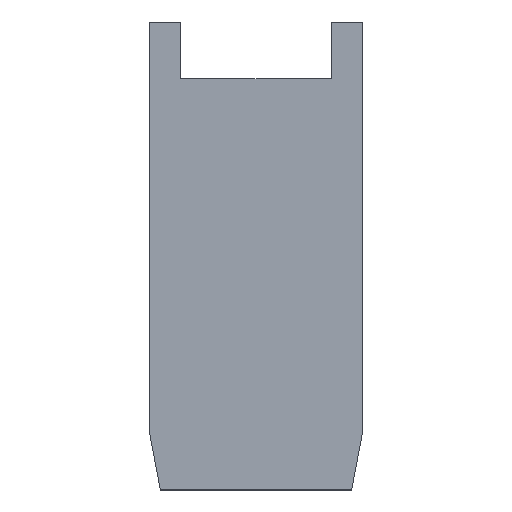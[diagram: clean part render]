
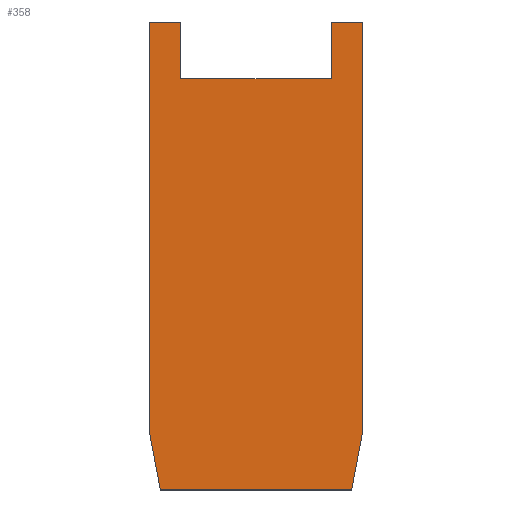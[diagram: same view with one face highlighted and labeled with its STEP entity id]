
A CAD part, top view. The second image highlights one B-rep face of the part: STEP entity #358.
In plain terms, the highlighted planar face has unit normal (0, 0, 1).
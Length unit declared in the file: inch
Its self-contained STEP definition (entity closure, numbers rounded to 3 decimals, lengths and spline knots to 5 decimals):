
#11 = VERTEX_POINT ( 'NONE', #20 ) ;
#20 = CARTESIAN_POINT ( 'NONE',  ( -1.687, -4.125, 0.75 ) ) ;
#24 = CARTESIAN_POINT ( 'NONE',  ( 0., 0., 0.75 ) ) ;
#29 = EDGE_CURVE ( 'NONE', #11, #124, #141, .T. ) ;
#51 = CARTESIAN_POINT ( 'NONE',  ( 1.324, 4.125, 0.75 ) ) ;
#58 = DIRECTION ( 'NONE',  ( 0., -1., 0. ) ) ;
#61 = CARTESIAN_POINT ( 'NONE',  ( -1.875, 4.125, 0.75 ) ) ;
#65 = CARTESIAN_POINT ( 'NONE',  ( -1.324, 3.125, 0.75 ) ) ;
#68 = DIRECTION ( 'NONE',  ( 1., 0., 0. ) ) ;
#77 = EDGE_CURVE ( 'NONE', #468, #669, #584, .T. ) ;
#86 = VECTOR ( 'NONE', #562, 39.37008 ) ;
#101 = LINE ( 'NONE', #324, #86 ) ;
#118 = CARTESIAN_POINT ( 'NONE',  ( 1.687, -4.125, 0.75 ) ) ;
#124 = VERTEX_POINT ( 'NONE', #118 ) ;
#127 = CARTESIAN_POINT ( 'NONE',  ( 1.324, 4.125, 0.75 ) ) ;
#138 = DIRECTION ( 'NONE',  ( 0., 1., 0. ) ) ;
#141 = LINE ( 'NONE', #408, #463 ) ;
#161 = CARTESIAN_POINT ( 'NONE',  ( -1.687, -4.125, 0.75 ) ) ;
#164 = EDGE_CURVE ( 'NONE', #669, #686, #591, .T. ) ;
#167 = VERTEX_POINT ( 'NONE', #230 ) ;
#178 = EDGE_CURVE ( 'NONE', #686, #167, #516, .T. ) ;
#191 = EDGE_CURVE ( 'NONE', #305, #468, #375, .T. ) ;
#199 = LINE ( 'NONE', #238, #590 ) ;
#209 = VECTOR ( 'NONE', #572, 39.37008 ) ;
#225 = ORIENTED_EDGE ( 'NONE', *, *, #635, .T. ) ;
#229 = VERTEX_POINT ( 'NONE', #51 ) ;
#230 = CARTESIAN_POINT ( 'NONE',  ( -1.875, -3.125, 0.75 ) ) ;
#238 = CARTESIAN_POINT ( 'NONE',  ( -1.875, 4.125, 0.75 ) ) ;
#239 = CARTESIAN_POINT ( 'NONE',  ( -1.324, 4.125, 0.75 ) ) ;
#243 = DIRECTION ( 'NONE',  ( 0., -1., 0. ) ) ;
#260 = VERTEX_POINT ( 'NONE', #447 ) ;
#263 = ORIENTED_EDGE ( 'NONE', *, *, #292, .T. ) ;
#264 = EDGE_CURVE ( 'NONE', #124, #649, #427, .T. ) ;
#270 = DIRECTION ( 'NONE',  ( 0.185, -0.983, 0. ) ) ;
#292 = EDGE_CURVE ( 'NONE', #167, #11, #318, .T. ) ;
#305 = VERTEX_POINT ( 'NONE', #495 ) ;
#318 = LINE ( 'NONE', #161, #364 ) ;
#324 = CARTESIAN_POINT ( 'NONE',  ( 1.875, 4.125, 0.75 ) ) ;
#328 = DIRECTION ( 'NONE',  ( 0.185, 0.983, 0. ) ) ;
#334 = ORIENTED_EDGE ( 'NONE', *, *, #29, .T. ) ;
#340 = ORIENTED_EDGE ( 'NONE', *, *, #264, .T. ) ;
#358 = ADVANCED_FACE ( 'NONE', ( #666 ), #471, .T. ) ;
#364 = VECTOR ( 'NONE', #270, 39.37008 ) ;
#370 = ORIENTED_EDGE ( 'NONE', *, *, #397, .T. ) ;
#374 = EDGE_CURVE ( 'NONE', #260, #229, #199, .T. ) ;
#375 = LINE ( 'NONE', #394, #651 ) ;
#384 = EDGE_LOOP ( 'NONE', ( #370, #548, #402, #502, #576, #263, #334, #340, #225, #430 ) ) ;
#394 = CARTESIAN_POINT ( 'NONE',  ( 1.324, 3.125, 0.75 ) ) ;
#397 = EDGE_CURVE ( 'NONE', #229, #305, #496, .T. ) ;
#399 = VECTOR ( 'NONE', #243, 39.37008 ) ;
#402 = ORIENTED_EDGE ( 'NONE', *, *, #77, .T. ) ;
#408 = CARTESIAN_POINT ( 'NONE',  ( -1.875, -4.125, 0.75 ) ) ;
#412 = DIRECTION ( 'NONE',  ( 1., 0., 0. ) ) ;
#427 = LINE ( 'NONE', #670, #597 ) ;
#430 = ORIENTED_EDGE ( 'NONE', *, *, #374, .T. ) ;
#447 = CARTESIAN_POINT ( 'NONE',  ( 1.875, 4.125, 0.75 ) ) ;
#461 = DIRECTION ( 'NONE',  ( -1., 0., 0. ) ) ;
#462 = AXIS2_PLACEMENT_3D ( 'NONE', #24, #465, #68 ) ;
#463 = VECTOR ( 'NONE', #412, 39.37008 ) ;
#465 = DIRECTION ( 'NONE',  ( 0., 0., 1. ) ) ;
#468 = VERTEX_POINT ( 'NONE', #65 ) ;
#471 = PLANE ( 'NONE',  #462 ) ;
#480 = VECTOR ( 'NONE', #58, 39.37008 ) ;
#495 = CARTESIAN_POINT ( 'NONE',  ( 1.324, 3.125, 0.75 ) ) ;
#496 = LINE ( 'NONE', #127, #399 ) ;
#502 = ORIENTED_EDGE ( 'NONE', *, *, #164, .T. ) ;
#511 = DIRECTION ( 'NONE',  ( -1., 0., 0. ) ) ;
#514 = CARTESIAN_POINT ( 'NONE',  ( -1.875, 4.125, 0.75 ) ) ;
#516 = LINE ( 'NONE', #514, #480 ) ;
#548 = ORIENTED_EDGE ( 'NONE', *, *, #191, .T. ) ;
#562 = DIRECTION ( 'NONE',  ( 0., 1., 0. ) ) ;
#572 = DIRECTION ( 'NONE',  ( -1., 0., 0. ) ) ;
#576 = ORIENTED_EDGE ( 'NONE', *, *, #178, .T. ) ;
#579 = CARTESIAN_POINT ( 'NONE',  ( -1.875, 4.125, 0.75 ) ) ;
#584 = LINE ( 'NONE', #587, #694 ) ;
#587 = CARTESIAN_POINT ( 'NONE',  ( -1.324, 4.125, 0.75 ) ) ;
#590 = VECTOR ( 'NONE', #461, 39.37008 ) ;
#591 = LINE ( 'NONE', #61, #209 ) ;
#597 = VECTOR ( 'NONE', #328, 39.37008 ) ;
#610 = CARTESIAN_POINT ( 'NONE',  ( 1.875, -3.125, 0.75 ) ) ;
#635 = EDGE_CURVE ( 'NONE', #649, #260, #101, .T. ) ;
#649 = VERTEX_POINT ( 'NONE', #610 ) ;
#651 = VECTOR ( 'NONE', #511, 39.37008 ) ;
#666 = FACE_OUTER_BOUND ( 'NONE', #384, .T. ) ;
#669 = VERTEX_POINT ( 'NONE', #239 ) ;
#670 = CARTESIAN_POINT ( 'NONE',  ( 1.687, -4.125, 0.75 ) ) ;
#686 = VERTEX_POINT ( 'NONE', #579 ) ;
#694 = VECTOR ( 'NONE', #138, 39.37008 ) ;
